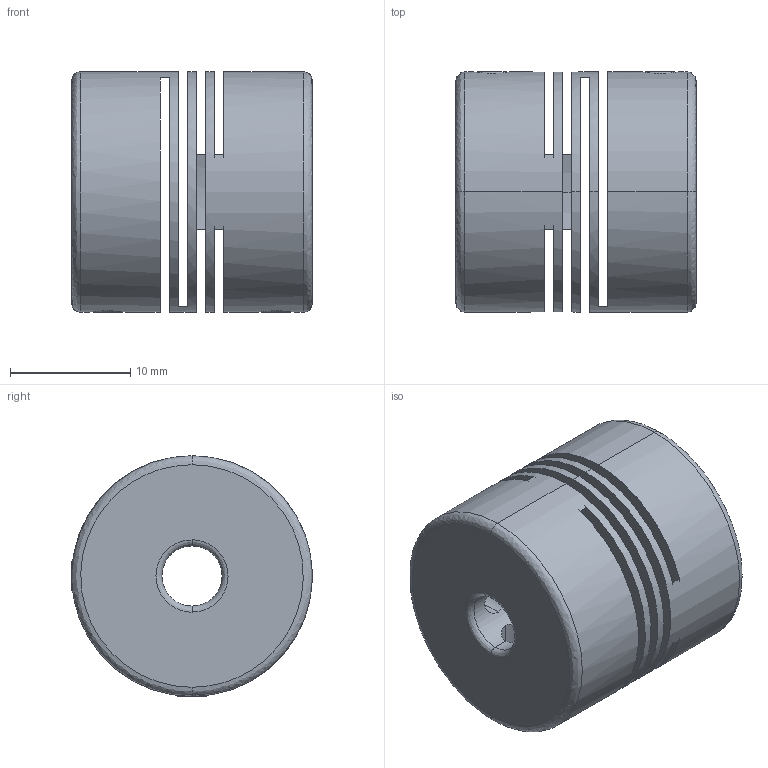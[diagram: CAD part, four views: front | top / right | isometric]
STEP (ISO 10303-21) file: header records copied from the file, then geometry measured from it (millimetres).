
FILE_DESCRIPTION (( 'STEP AP203' ), '1' );
FILE_NAME ('FAMM-S20.STEP', '2008-04-19T05:46:22', ( 'user' ), ( '' ), 'SwSTEP 2.0', 'SolidWorks 2007', '' );
FILE_SCHEMA (( 'CONFIG_CONTROL_DESIGN' ));
Length unit declared in the file: millimetre
Products named in the file (1): FAMM-S20
Bounding box: 20 x 20 x 20 mm (x, y, z)
Surface area: 4300.3 mm2 (no closed solid volume)
Topology: 0 solids, 5 shells, 86 faces, 252 edges, 164 vertices
Faces by surface type: plane 38, cylinder 24, bspline 16, cone 8
Entity records: 5049 total; most frequent: CARTESIAN_POINT 2817, ORIENTED_EDGE 444, DIRECTION 402, EDGE_CURVE 252, VERTEX_POINT 164, AXIS2_PLACEMENT_3D 135, VECTOR 132, LINE 132
